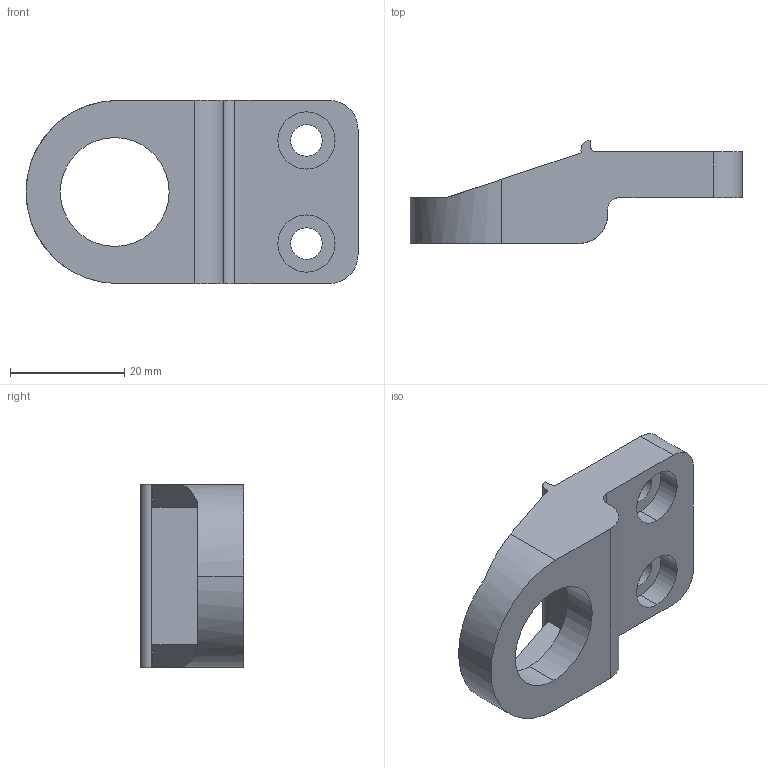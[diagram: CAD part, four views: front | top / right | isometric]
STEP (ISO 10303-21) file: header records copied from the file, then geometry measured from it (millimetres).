
FILE_DESCRIPTION (( 'STEP AP203' ), '1' );
FILE_NAME ('013.100.008.STEP', '2020-10-27T13:30:55', ( '' ), ( '' ), 'SwSTEP 2.0', 'SolidWorks 2018', '' );
FILE_SCHEMA (( 'CONFIG_CONTROL_DESIGN' ));
Length unit declared in the file: millimetre
Products named in the file (1): 013.100.008
Bounding box: 58 x 18 x 32 mm (x, y, z)
Volume: 12100 mm3; surface area: 5941.4 mm2
Topology: 1 solids, 1 shells, 46 faces, 120 edges, 80 vertices
Faces by surface type: plane 24, cylinder 22
Entity records: 1517 total; most frequent: DIRECTION 256, CARTESIAN_POINT 253, ORIENTED_EDGE 240, EDGE_CURVE 120, AXIS2_PLACEMENT_3D 91, VERTEX_POINT 80, VECTOR 74, LINE 74
